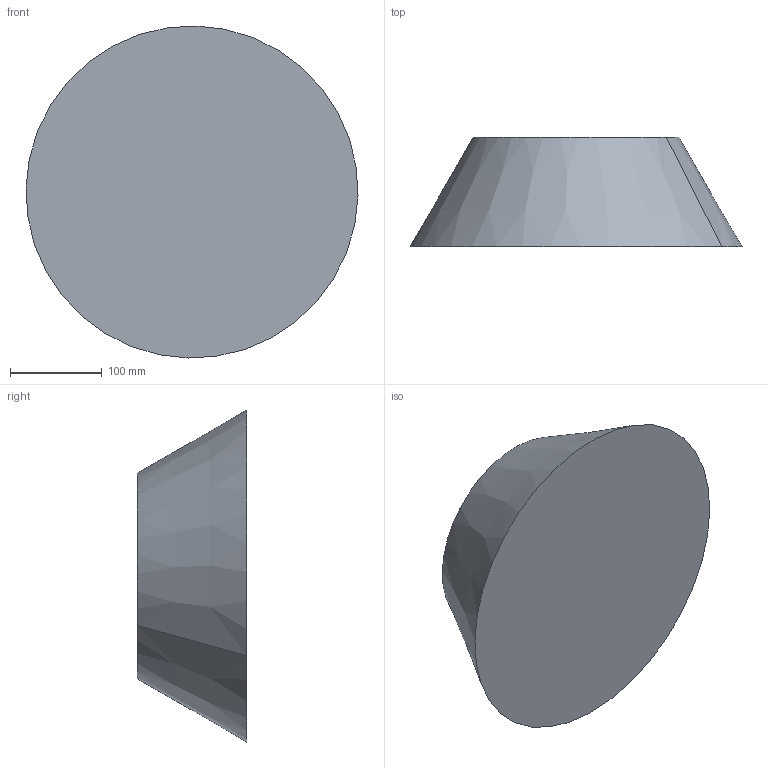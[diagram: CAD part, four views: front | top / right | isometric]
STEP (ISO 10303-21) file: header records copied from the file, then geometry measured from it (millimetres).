
FILE_DESCRIPTION(('CATIA V5 STEP Exchange'),'2;1');
FILE_NAME('C:\_Andres\UNIVERSIDAD\IQS\ASIGNATURAS\DAO\EXF\EXF-16172c\2inicio\Marra-Lopez_Llovet_Ej09_v19.stp','2017-03-05T22:13:12+00:00',('none'),('none'),'CATIA Version 5-6 Release 2014 SP1 HF18','CATIA V5 STEP AP203','none');
FILE_SCHEMA(('CONFIG_CONTROL_DESIGN'));
Length unit declared in the file: millimetre
Products named in the file (1): Marra-Lopez_Llovet_Ej09_v19
Bounding box: 361.9 x 119 x 361.9 mm (x, y, z)
Volume: 8179038.3 mm3; surface area: 271348 mm2
Topology: 1 solids, 2 shells, 8 faces, 12 edges, 8 vertices
Faces by surface type: plane 4, cone 2, cylinder 2
Entity records: 205 total; most frequent: CARTESIAN_POINT 27, DIRECTION 24, ORIENTED_EDGE 24, AXIS2_PLACEMENT_3D 15, EDGE_CURVE 12, ADVANCED_FACE 8, CIRCLE 8, EDGE_LOOP 8
